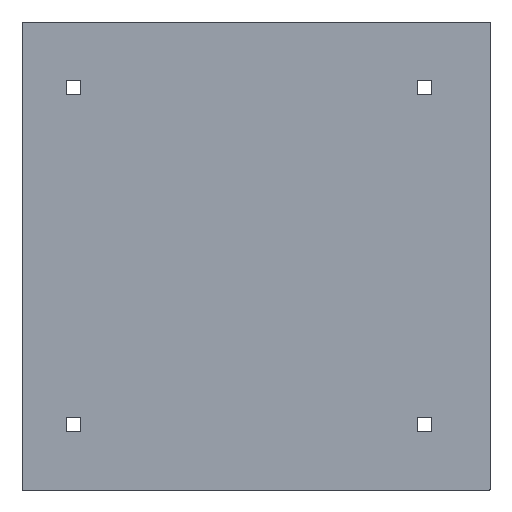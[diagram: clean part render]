
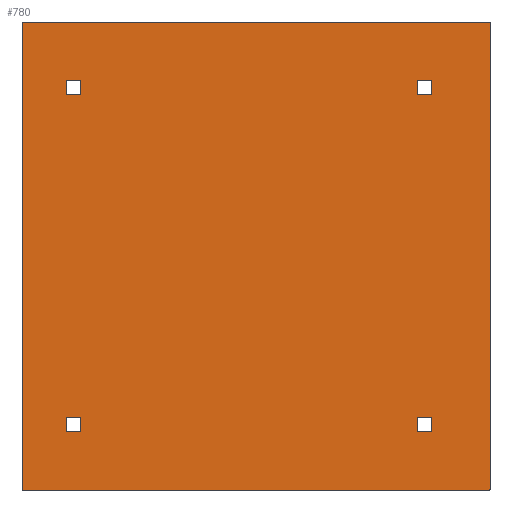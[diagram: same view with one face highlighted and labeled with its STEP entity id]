
A CAD part, front view. The second image highlights one B-rep face of the part: STEP entity #780.
In plain terms, the highlighted planar face has unit normal (0, -1, 0).
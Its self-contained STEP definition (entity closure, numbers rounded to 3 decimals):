
#23=FACE_BOUND('',#309,.T.);
#24=FACE_BOUND('',#310,.T.);
#25=FACE_BOUND('',#311,.T.);
#26=FACE_BOUND('',#312,.T.);
#38=PLANE('',#853);
#87=LINE('',#1196,#167);
#88=LINE('',#1198,#168);
#89=LINE('',#1200,#169);
#90=LINE('',#1201,#170);
#91=LINE('',#1204,#171);
#92=LINE('',#1206,#172);
#93=LINE('',#1208,#173);
#94=LINE('',#1209,#174);
#95=LINE('',#1212,#175);
#96=LINE('',#1214,#176);
#97=LINE('',#1216,#177);
#98=LINE('',#1217,#178);
#99=LINE('',#1220,#179);
#100=LINE('',#1222,#180);
#101=LINE('',#1224,#181);
#102=LINE('',#1225,#182);
#103=LINE('',#1228,#183);
#104=LINE('',#1230,#184);
#105=LINE('',#1232,#185);
#106=LINE('',#1233,#186);
#167=VECTOR('',#974,998.);
#168=VECTOR('',#977,998.);
#169=VECTOR('',#980,998.);
#170=VECTOR('',#981,998.);
#171=VECTOR('',#982,30.);
#172=VECTOR('',#983,30.);
#173=VECTOR('',#984,30.);
#174=VECTOR('',#985,30.);
#175=VECTOR('',#986,30.);
#176=VECTOR('',#987,30.);
#177=VECTOR('',#988,30.);
#178=VECTOR('',#989,30.);
#179=VECTOR('',#990,30.);
#180=VECTOR('',#991,30.);
#181=VECTOR('',#992,30.);
#182=VECTOR('',#993,30.);
#183=VECTOR('',#994,30.);
#184=VECTOR('',#995,30.);
#185=VECTOR('',#996,30.);
#186=VECTOR('',#997,30.);
#257=FACE_OUTER_BOUND('',#308,.T.);
#308=EDGE_LOOP('',(#606,#607,#608,#609,#610,#611,#612,#613));
#309=EDGE_LOOP('',(#614,#615,#616,#617));
#310=EDGE_LOOP('',(#618,#619,#620,#621));
#311=EDGE_LOOP('',(#622,#623,#624,#625));
#312=EDGE_LOOP('',(#626,#627,#628,#629));
#361=CIRCLE('',#828,1.);
#365=CIRCLE('',#834,1.);
#369=CIRCLE('',#840,1.);
#373=CIRCLE('',#847,1.);
#385=VERTEX_POINT('',#1139);
#386=VERTEX_POINT('',#1140);
#390=VERTEX_POINT('',#1152);
#391=VERTEX_POINT('',#1153);
#395=VERTEX_POINT('',#1165);
#396=VERTEX_POINT('',#1166);
#400=VERTEX_POINT('',#1181);
#401=VERTEX_POINT('',#1182);
#402=VERTEX_POINT('',#1202);
#403=VERTEX_POINT('',#1203);
#404=VERTEX_POINT('',#1205);
#405=VERTEX_POINT('',#1207);
#406=VERTEX_POINT('',#1210);
#407=VERTEX_POINT('',#1211);
#408=VERTEX_POINT('',#1213);
#409=VERTEX_POINT('',#1215);
#410=VERTEX_POINT('',#1218);
#411=VERTEX_POINT('',#1219);
#412=VERTEX_POINT('',#1221);
#413=VERTEX_POINT('',#1223);
#414=VERTEX_POINT('',#1226);
#415=VERTEX_POINT('',#1227);
#416=VERTEX_POINT('',#1229);
#417=VERTEX_POINT('',#1231);
#453=EDGE_CURVE('',#385,#386,#361,.T.);
#459=EDGE_CURVE('',#390,#391,#365,.T.);
#465=EDGE_CURVE('',#395,#396,#369,.T.);
#473=EDGE_CURVE('',#400,#401,#373,.T.);
#482=EDGE_CURVE('',#396,#385,#87,.T.);
#483=EDGE_CURVE('',#401,#395,#88,.T.);
#484=EDGE_CURVE('',#391,#400,#89,.T.);
#485=EDGE_CURVE('',#386,#390,#90,.T.);
#486=EDGE_CURVE('',#402,#403,#91,.T.);
#487=EDGE_CURVE('',#403,#404,#92,.T.);
#488=EDGE_CURVE('',#404,#405,#93,.T.);
#489=EDGE_CURVE('',#405,#402,#94,.T.);
#490=EDGE_CURVE('',#406,#407,#95,.T.);
#491=EDGE_CURVE('',#407,#408,#96,.T.);
#492=EDGE_CURVE('',#408,#409,#97,.T.);
#493=EDGE_CURVE('',#409,#406,#98,.T.);
#494=EDGE_CURVE('',#410,#411,#99,.T.);
#495=EDGE_CURVE('',#411,#412,#100,.T.);
#496=EDGE_CURVE('',#412,#413,#101,.T.);
#497=EDGE_CURVE('',#413,#410,#102,.T.);
#498=EDGE_CURVE('',#414,#415,#103,.T.);
#499=EDGE_CURVE('',#415,#416,#104,.T.);
#500=EDGE_CURVE('',#416,#417,#105,.T.);
#501=EDGE_CURVE('',#417,#414,#106,.T.);
#606=ORIENTED_EDGE('',*,*,#453,.F.);
#607=ORIENTED_EDGE('',*,*,#482,.F.);
#608=ORIENTED_EDGE('',*,*,#465,.F.);
#609=ORIENTED_EDGE('',*,*,#483,.F.);
#610=ORIENTED_EDGE('',*,*,#473,.F.);
#611=ORIENTED_EDGE('',*,*,#484,.F.);
#612=ORIENTED_EDGE('',*,*,#459,.F.);
#613=ORIENTED_EDGE('',*,*,#485,.F.);
#614=ORIENTED_EDGE('',*,*,#486,.T.);
#615=ORIENTED_EDGE('',*,*,#487,.T.);
#616=ORIENTED_EDGE('',*,*,#488,.T.);
#617=ORIENTED_EDGE('',*,*,#489,.T.);
#618=ORIENTED_EDGE('',*,*,#490,.T.);
#619=ORIENTED_EDGE('',*,*,#491,.T.);
#620=ORIENTED_EDGE('',*,*,#492,.T.);
#621=ORIENTED_EDGE('',*,*,#493,.T.);
#622=ORIENTED_EDGE('',*,*,#494,.T.);
#623=ORIENTED_EDGE('',*,*,#495,.T.);
#624=ORIENTED_EDGE('',*,*,#496,.T.);
#625=ORIENTED_EDGE('',*,*,#497,.T.);
#626=ORIENTED_EDGE('',*,*,#498,.T.);
#627=ORIENTED_EDGE('',*,*,#499,.T.);
#628=ORIENTED_EDGE('',*,*,#500,.T.);
#629=ORIENTED_EDGE('',*,*,#501,.T.);
#780=ADVANCED_FACE('',(#257,#23,#24,#25,#26),#38,.F.);
#828=AXIS2_PLACEMENT_3D('',#1141,#910,#911);
#834=AXIS2_PLACEMENT_3D('',#1154,#924,#925);
#840=AXIS2_PLACEMENT_3D('',#1167,#938,#939);
#847=AXIS2_PLACEMENT_3D('',#1183,#956,#957);
#853=AXIS2_PLACEMENT_3D('',#1199,#978,#979);
#910=DIRECTION('center_axis',(0.,1.,0.));
#911=DIRECTION('ref_axis',(0.707,0.,-0.707));
#924=DIRECTION('center_axis',(0.,1.,0.));
#925=DIRECTION('ref_axis',(-0.707,0.,-0.707));
#938=DIRECTION('center_axis',(0.,1.,0.));
#939=DIRECTION('ref_axis',(0.707,0.,0.707));
#956=DIRECTION('center_axis',(0.,1.,0.));
#957=DIRECTION('ref_axis',(-0.707,0.,0.707));
#974=DIRECTION('',(0.,0.,-1.));
#977=DIRECTION('',(1.,0.,0.));
#978=DIRECTION('center_axis',(0.,1.,0.));
#979=DIRECTION('ref_axis',(0.,0.,1.));
#980=DIRECTION('',(0.,0.,1.));
#981=DIRECTION('',(-1.,0.,0.));
#982=DIRECTION('',(0.,0.,-1.));
#983=DIRECTION('',(-1.,0.,0.));
#984=DIRECTION('',(0.,0.,1.));
#985=DIRECTION('',(1.,0.,0.));
#986=DIRECTION('',(0.,0.,1.));
#987=DIRECTION('',(1.,0.,0.));
#988=DIRECTION('',(0.,0.,-1.));
#989=DIRECTION('',(-1.,0.,0.));
#990=DIRECTION('',(0.,0.,1.));
#991=DIRECTION('',(1.,0.,0.));
#992=DIRECTION('',(0.,0.,-1.));
#993=DIRECTION('',(-1.,0.,0.));
#994=DIRECTION('',(0.,0.,1.));
#995=DIRECTION('',(1.,0.,0.));
#996=DIRECTION('',(0.,0.,-1.));
#997=DIRECTION('',(-1.,0.,0.));
#1139=CARTESIAN_POINT('',(1000.,0.,-999.));
#1140=CARTESIAN_POINT('',(999.,0.,-1000.));
#1141=CARTESIAN_POINT('Origin',(999.,0.,-999.));
#1152=CARTESIAN_POINT('',(1.,0.,-1000.));
#1153=CARTESIAN_POINT('',(0.,0.,-999.));
#1154=CARTESIAN_POINT('Origin',(1.,0.,-999.));
#1165=CARTESIAN_POINT('',(999.,0.,0.));
#1166=CARTESIAN_POINT('',(1000.,0.,-1.));
#1167=CARTESIAN_POINT('Origin',(999.,0.,-1.));
#1181=CARTESIAN_POINT('',(0.,0.,-1.));
#1182=CARTESIAN_POINT('',(1.,0.,0.));
#1183=CARTESIAN_POINT('Origin',(1.,0.,-1.));
#1196=CARTESIAN_POINT('',(1000.,0.,0.));
#1198=CARTESIAN_POINT('',(0.,0.,0.));
#1199=CARTESIAN_POINT('Origin',(500.,0.,-500.));
#1200=CARTESIAN_POINT('',(0.,0.,-1000.));
#1201=CARTESIAN_POINT('',(1000.,0.,-1000.));
#1202=CARTESIAN_POINT('',(125.666,0.,-125.));
#1203=CARTESIAN_POINT('',(125.666,0.,-155.));
#1204=CARTESIAN_POINT('',(125.666,0.,-312.5));
#1205=CARTESIAN_POINT('',(95.666,0.,-155.));
#1206=CARTESIAN_POINT('',(312.833,0.,-155.));
#1207=CARTESIAN_POINT('',(95.666,0.,-125.));
#1208=CARTESIAN_POINT('',(95.666,0.,-327.5));
#1209=CARTESIAN_POINT('',(297.833,0.,-125.));
#1210=CARTESIAN_POINT('',(95.666,0.,-875.));
#1211=CARTESIAN_POINT('',(95.666,0.,-845.));
#1212=CARTESIAN_POINT('',(95.666,0.,-687.5));
#1213=CARTESIAN_POINT('',(125.666,0.,-845.));
#1214=CARTESIAN_POINT('',(297.833,0.,-845.));
#1215=CARTESIAN_POINT('',(125.666,0.,-875.));
#1216=CARTESIAN_POINT('',(125.666,0.,-672.5));
#1217=CARTESIAN_POINT('',(312.833,0.,-875.));
#1218=CARTESIAN_POINT('',(845.,0.,-155.));
#1219=CARTESIAN_POINT('',(845.,0.,-125.));
#1220=CARTESIAN_POINT('',(845.,0.,-327.5));
#1221=CARTESIAN_POINT('',(875.,0.,-125.));
#1222=CARTESIAN_POINT('',(672.5,0.,-125.));
#1223=CARTESIAN_POINT('',(875.,0.,-155.));
#1224=CARTESIAN_POINT('',(875.,0.,-312.5));
#1225=CARTESIAN_POINT('',(687.5,0.,-155.));
#1226=CARTESIAN_POINT('',(845.,0.,-875.));
#1227=CARTESIAN_POINT('',(845.,0.,-845.));
#1228=CARTESIAN_POINT('',(845.,0.,-687.5));
#1229=CARTESIAN_POINT('',(875.,0.,-845.));
#1230=CARTESIAN_POINT('',(672.5,0.,-845.));
#1231=CARTESIAN_POINT('',(875.,0.,-875.));
#1232=CARTESIAN_POINT('',(875.,0.,-672.5));
#1233=CARTESIAN_POINT('',(687.5,0.,-875.));
